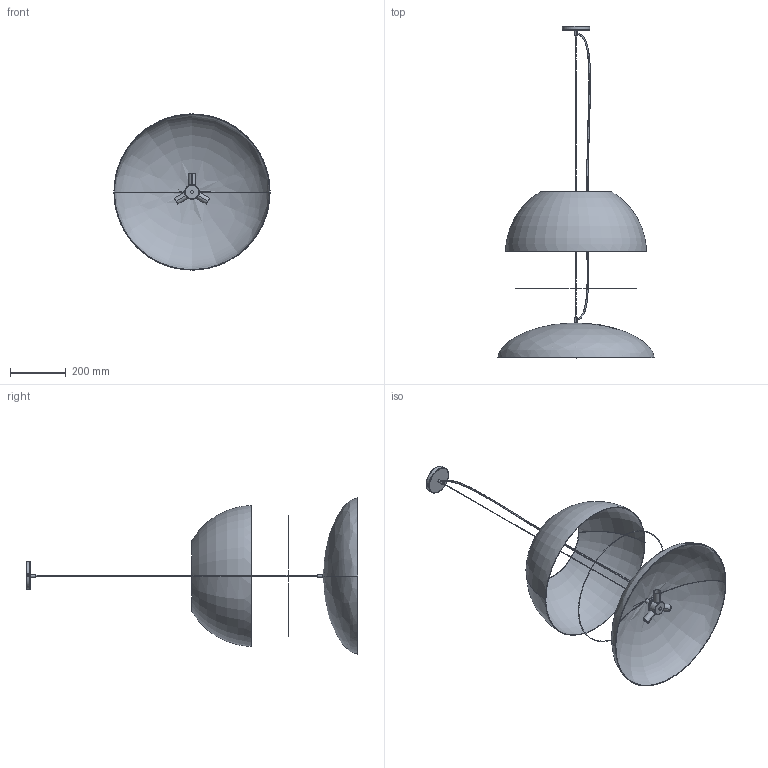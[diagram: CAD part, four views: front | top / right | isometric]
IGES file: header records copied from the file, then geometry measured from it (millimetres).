
Start section: SolidWorks IGES file using analytic representation for surfaces
Global section: file name: C:\Users\Agus\Desktop\Libreria modelos\C1222\C1222-.IGS; native system: SolidWorks 2016; preprocessor: SolidWorks 2016; author: Agus; date: 170724.102701; units: millimetre
Bounding box: 560 x 1190 x 560 mm (x, y, z)
Surface area: 1397614.2 mm2 (no closed solid volume)
Topology: 0 solids, 0 shells, 137 faces, 2588 edges, 2588 vertices
Faces by surface type: bspline 79, revolution 58
